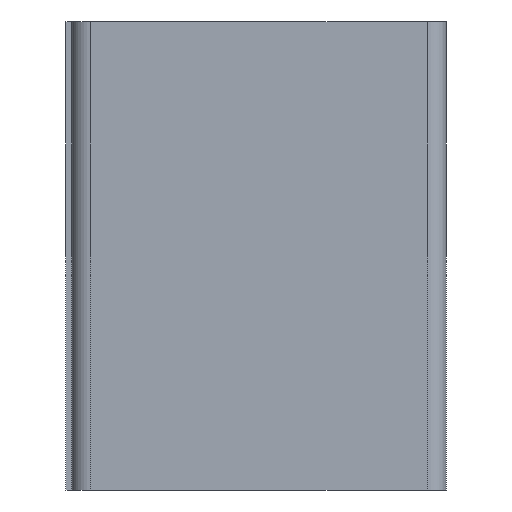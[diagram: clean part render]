
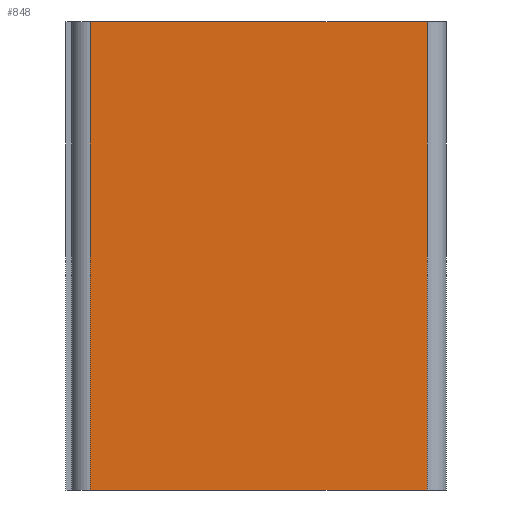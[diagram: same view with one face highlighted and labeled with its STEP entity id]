
A CAD part, left-side view. The second image highlights one B-rep face of the part: STEP entity #848.
In plain terms, the highlighted planar face has unit normal (-1, 0, 0).
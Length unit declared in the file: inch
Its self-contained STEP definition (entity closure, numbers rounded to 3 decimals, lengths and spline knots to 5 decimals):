
#38=FACE_OUTER_BOUND('',#88,.T.);
#88=EDGE_LOOP('',(#592,#593,#594,#595));
#142=LINE('',#1221,#254);
#144=LINE('',#1227,#256);
#152=LINE('',#1245,#264);
#153=LINE('',#1246,#265);
#254=VECTOR('',#989,0.025);
#256=VECTOR('',#995,0.018);
#264=VECTOR('',#1007,0.018);
#265=VECTOR('',#1008,0.025);
#363=VERTEX_POINT('',#1218);
#364=VERTEX_POINT('',#1220);
#366=VERTEX_POINT('',#1226);
#374=VERTEX_POINT('',#1244);
#447=EDGE_CURVE('',#363,#364,#142,.T.);
#450=EDGE_CURVE('',#364,#366,#144,.T.);
#459=EDGE_CURVE('',#374,#363,#152,.T.);
#460=EDGE_CURVE('',#366,#374,#153,.T.);
#592=ORIENTED_EDGE('',*,*,#447,.F.);
#593=ORIENTED_EDGE('',*,*,#459,.F.);
#594=ORIENTED_EDGE('',*,*,#460,.F.);
#595=ORIENTED_EDGE('',*,*,#450,.F.);
#801=PLANE('',#912);
#848=ADVANCED_FACE('',(#38),#801,.T.);
#912=AXIS2_PLACEMENT_3D('',#1243,#1005,#1006);
#989=DIRECTION('',(0.,0.,-1.));
#995=DIRECTION('',(0.,1.,0.));
#1005=DIRECTION('center_axis',(-1.,0.,0.));
#1006=DIRECTION('ref_axis',(0.,-1.,0.));
#1007=DIRECTION('',(0.,-1.,0.));
#1008=DIRECTION('',(0.,0.,1.));
#1218=CARTESIAN_POINT('',(-0.0275,0.001,0.0125));
#1220=CARTESIAN_POINT('',(-0.0275,0.001,-0.0125));
#1221=CARTESIAN_POINT('',(-0.0275,0.001,0.));
#1226=CARTESIAN_POINT('',(-0.0275,0.019,-0.0125));
#1227=CARTESIAN_POINT('',(-0.0275,0.02,-0.0125));
#1243=CARTESIAN_POINT('Origin',(-0.0275,0.02,0.));
#1244=CARTESIAN_POINT('',(-0.0275,0.019,0.0125));
#1245=CARTESIAN_POINT('',(-0.0275,0.02,0.0125));
#1246=CARTESIAN_POINT('',(-0.0275,0.019,0.));
